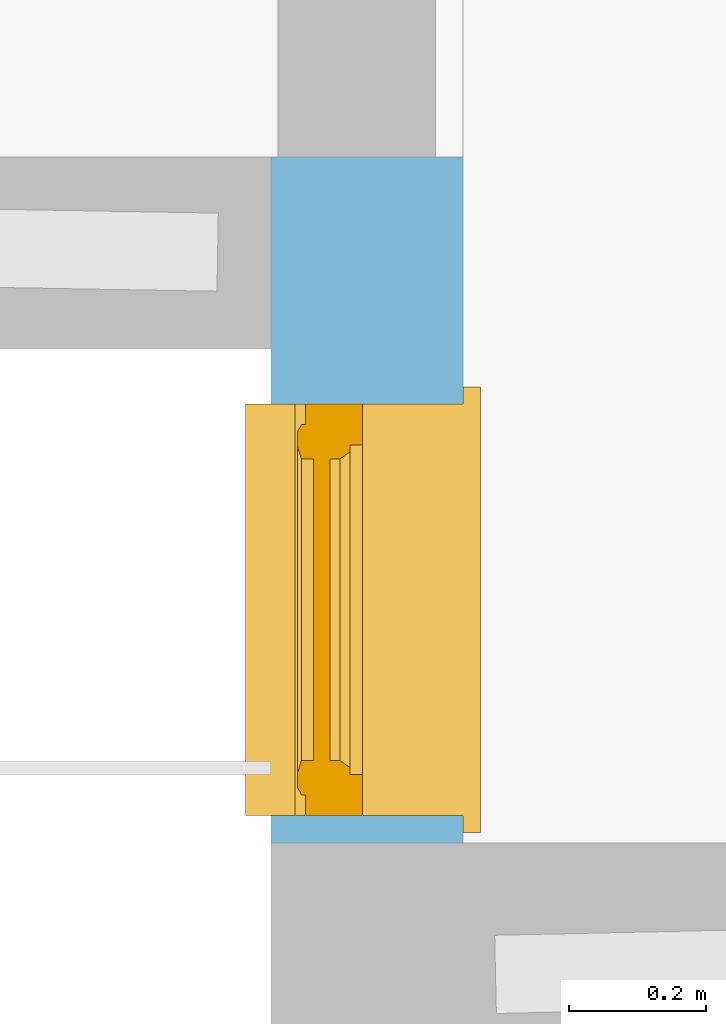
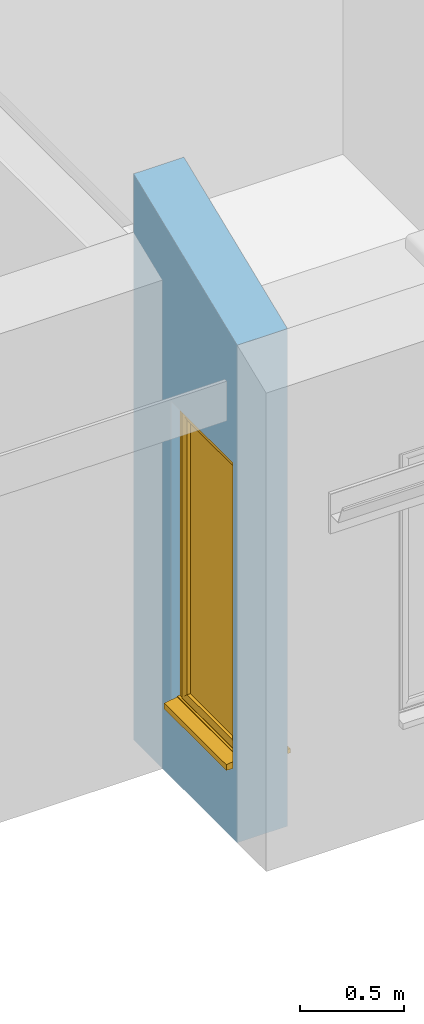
# One storey, part 10 of 41: 1 window, 1 opening, plus 1 element that does not belong to this part.
"""IFC2X3 building model written with IfcOpenShell, lengths in millimetres."""

import ifcopenshell
import ifcopenshell.guid

model = None  # the IFC model being written
_history = None  # IfcOwnerHistory: only IFC2X3 demands one
_inside = {}  # id of a spatial element -> (the spatial element, [elements in it])
_under = {}  # id of a project, library or spatial element -> (it, [spatial elements below it])
_declared = {}  # id of a project -> (the project, [libraries it declares])
_typed = {}  # id of a type object -> (the type object, [elements of that type])
_made_of = {}  # id of a material, layer set ... -> (it, [elements and type objects made of it])


def new_model(schema):
    """Start an empty IFC model of exactly this schema.

    Asked for "IFC4X3", IfcOpenShell would pick the latest addendum, in which some entities
    have other attributes; the version numbers below select the first issue.
    IFC2X3 requires an IfcOwnerHistory on every rooted entity: one is made here for all.
    """
    global model, _history
    if schema == "IFC4X3":
        model = ifcopenshell.file(schema_version=(4, 3, 0, 0))
    else:
        model = ifcopenshell.file(schema=schema)
    _inside.clear()
    _under.clear()
    _declared.clear()
    _typed.clear()
    _made_of.clear()
    _history = None
    if model.schema == "IFC2X3":
        org = make("IfcOrganization", Name="unknown")
        user = make(
            "IfcPersonAndOrganization",
            ThePerson=make("IfcPerson", FamilyName="unknown"),
            TheOrganization=org,
        )
        app = make(
            "IfcApplication",
            ApplicationDeveloper=org,
            Version="unknown",
            ApplicationFullName="unknown",
            ApplicationIdentifier="unknown",
        )
        _history = make(
            "IfcOwnerHistory",
            OwningUser=user,
            OwningApplication=app,
            ChangeAction="ADDED",
            CreationDate=0,
        )
    return model


def make(cls, **values):
    """One entity of the class cls with the attributes given. An attribute that is None is left unset."""
    return model.create_entity(
        cls, **{name: value for name, value in values.items() if value is not None}
    )


def entity(cls, *values):
    """Any entity or typed value of the class cls, its attributes in the order of the schema. None: left unset."""
    e = model.create_entity(cls)
    for i, value in enumerate(values):
        if value is not None:
            e[i] = value
    return e


def rooted(cls, **values):
    """An entity with a GlobalId (a new one), such as an element, a storey or a relation."""
    return make(cls, GlobalId=ifcopenshell.guid.new(), OwnerHistory=_history, **values)


def si_unit(unit_type, name, prefix=None):
    """IfcSIUnit, for example si_unit("LENGTHUNIT", "METRE", prefix="MILLI")."""
    return make("IfcSIUnit", UnitType=unit_type, Prefix=prefix, Name=name)


def converted_unit(unit_type, name, factor, base, dimensions=None, offset=None):
    """IfcConversionBasedUnit, such as the inch: factor (a typed value) times the base unit."""
    return make(
        "IfcConversionBasedUnit"
        if offset is None
        else "IfcConversionBasedUnitWithOffset",
        ConversionOffset=offset,
        Dimensions=None
        if dimensions is None
        else entity("IfcDimensionalExponents", *dimensions),
        UnitType=unit_type,
        Name=name,
        ConversionFactor=make(
            "IfcMeasureWithUnit", ValueComponent=factor, UnitComponent=base
        ),
    )


def derived_unit(unit_type, elements):
    """IfcDerivedUnit: a product of units, each with its exponent."""
    return make(
        "IfcDerivedUnit",
        Elements=[
            make("IfcDerivedUnitElement", Unit=unit, Exponent=power)
            for unit, power in elements
        ],
        UnitType=unit_type,
    )


def assignment(units):
    """IfcUnitAssignment: the units of a project."""
    return None if units is None else make("IfcUnitAssignment", Units=units)


def point(xyz):
    """IfcCartesianPoint."""
    return None if xyz is None else make("IfcCartesianPoint", Coordinates=xyz)


def direction(xyz):
    """IfcDirection."""
    return None if xyz is None else make("IfcDirection", DirectionRatios=xyz)


def frame(location, z_axis=None, x_axis=None):
    """IfcAxis2Placement3D, a coordinate frame: its origin and axes. An axis left out is left unset."""
    return make(
        "IfcAxis2Placement3D",
        Location=point(location),
        Axis=direction(z_axis),
        RefDirection=direction(x_axis),
    )


def frame_2d(location, x_axis=None):
    """IfcAxis2Placement2D, a coordinate frame in the plane: its origin and x axis."""
    return make(
        "IfcAxis2Placement2D", Location=point(location), RefDirection=direction(x_axis)
    )


def origin():
    """The frame at (0, 0, 0) with its axes left unset."""
    return frame((0.0, 0.0, 0.0))


def place(relative_to, where):
    """IfcLocalPlacement: puts the frame where relative to a parent placement (None: the world)."""
    return make(
        "IfcLocalPlacement", PlacementRelTo=relative_to, RelativePlacement=where
    )


def context(
    kind, dimensions, precision=None, world=None, true_north=None, identifier=None
):
    """IfcGeometricRepresentationContext, for example the 3D "Model" context."""
    return make(
        "IfcGeometricRepresentationContext",
        ContextIdentifier=identifier,
        ContextType=kind,
        CoordinateSpaceDimension=dimensions,
        Precision=precision,
        WorldCoordinateSystem=world,
        TrueNorth=true_north,
    )


def subcontext(parent, identifier, kind, view, scale=None):
    """IfcGeometricRepresentationSubContext, for example "Body" below "Model"."""
    return make(
        "IfcGeometricRepresentationSubContext",
        ContextIdentifier=identifier,
        ContextType=kind,
        ParentContext=parent,
        TargetScale=scale,
        TargetView=view,
    )


def project(units=None, contexts=None):
    """IfcProject with its units and contexts."""
    return rooted(
        "IfcProject",
        Name="project",
        RepresentationContexts=contexts,
        UnitsInContext=assignment(units),
    )


def spatial(cls, under=None, at=None, **own):
    """A site, building, storey or space (cls), placed at a placement, below another one or the project."""
    s = rooted(cls, ObjectPlacement=at, **own)
    if under is not None:
        _under.setdefault(under.id(), (under, []))[1].append(s)
    return s


def polyline(points):
    """IfcPolyline through the points."""
    return make("IfcPolyline", Points=[point(p) for p in points])


def profile(cls, at=None, kind="AREA", **sizes):
    """A parametric profile (cls). Its sizes go by their IFC names, for example OverallWidth=200.0."""
    return make(cls, ProfileType=kind, Position=at, **sizes)


def rectangle(**sizes):
    """IfcRectangleProfileDef."""
    return profile("IfcRectangleProfileDef", **sizes)


def extrude(swept, where, along, depth):
    """IfcExtrudedAreaSolid: the profile swept, set in the frame where, extruded along a direction by depth."""
    return make(
        "IfcExtrudedAreaSolid",
        SweptArea=swept,
        Position=where,
        ExtrudedDirection=direction(along),
        Depth=depth,
    )


def clip(a, b, op="DIFFERENCE"):
    """IfcBooleanClippingResult: the solid a cut by the half space b."""
    return make(
        "IfcBooleanClippingResult", Operator=op, FirstOperand=a, SecondOperand=b
    )


def bounded_halfspace(plane, agree, where, boundary):
    """IfcPolygonalBoundedHalfSpace: a half space limited to a polygon's prism."""
    return make(
        "IfcPolygonalBoundedHalfSpace",
        BaseSurface=make("IfcPlane", Position=plane),
        AgreementFlag=agree,
        Position=where,
        PolygonalBoundary=boundary,
    )


def faces_of(points, faces, orient=None, outer=None):
    """IfcFace entities. A face is a list of loops; a loop is a list of indices into points, from 0.

    orient and outer hold one flag for each loop. By default every Orientation is true, the
    first loop of a face is its IfcFaceOuterBound and the others are IfcFaceBound.
    """
    made = []
    for i, loops in enumerate(faces):
        bounds = []
        for j, loop in enumerate(loops):
            is_outer = j == 0 if outer is None else outer[i][j]
            bounds.append(
                make(
                    "IfcFaceOuterBound" if is_outer else "IfcFaceBound",
                    Bound=make("IfcPolyLoop", Polygon=[points[k] for k in loop]),
                    Orientation=True if orient is None else orient[i][j],
                )
            )
        made.append(make("IfcFace", Bounds=bounds))
    return made


def faceted_brep(points, faces, orient=None, outer=None, voids=None):
    """IfcFacetedBrep: a solid bounded by flat faces; with voids (closed shells), ...WithVoids."""
    shared = [point(p) for p in points]
    hull = make("IfcClosedShell", CfsFaces=faces_of(shared, faces, orient, outer))
    if voids is None:
        return make("IfcFacetedBrep", Outer=hull)
    return make(
        "IfcFacetedBrepWithVoids",
        Outer=hull,
        Voids=[
            make(cls, CfsFaces=faces_of(shared, fs, o, b)) for cls, fs, o, b in voids
        ],
    )


def shape(context_of_items, identifier, shape_type, items):
    """IfcShapeRepresentation: the items that make up one representation, for example the "Body"."""
    return make(
        "IfcShapeRepresentation",
        ContextOfItems=context_of_items,
        RepresentationIdentifier=identifier,
        RepresentationType=shape_type,
        Items=items,
    )


def source(mapping_origin, context_of_items, identifier, shape_type, items):
    """IfcRepresentationMap: a shape defined once, which mapped items show again and again."""
    return make(
        "IfcRepresentationMap",
        MappingOrigin=mapping_origin,
        MappedRepresentation=shape(context_of_items, identifier, shape_type, items),
    )


def transform(
    local_origin,
    x_axis=None,
    y_axis=None,
    z_axis=None,
    scale=None,
    scale2=None,
    scale3=None,
    uniform=True,
):
    """IfcCartesianTransformationOperator3D, or its non-uniform kind. x_axis, y_axis, z_axis: its Axis1, 2, 3."""
    if uniform:
        return make(
            "IfcCartesianTransformationOperator3D",
            Axis1=direction(x_axis),
            Axis2=direction(y_axis),
            LocalOrigin=point(local_origin),
            Scale=scale,
            Axis3=direction(z_axis),
        )
    return make(
        "IfcCartesianTransformationOperator3DnonUniform",
        Axis1=direction(x_axis),
        Axis2=direction(y_axis),
        LocalOrigin=point(local_origin),
        Scale=scale,
        Axis3=direction(z_axis),
        Scale2=scale2,
        Scale3=scale3,
    )


def mapped(mapping_source, mapping_target):
    """IfcMappedItem: shows the shape of a source again, moved by a transform."""
    return make(
        "IfcMappedItem", MappingSource=mapping_source, MappingTarget=mapping_target
    )


def material(Name=None, Category=None):
    """IfcMaterial."""
    return make("IfcMaterial", Name=Name, Category=Category)


def material_list(materials):
    """IfcMaterialList."""
    return make("IfcMaterialList", Materials=materials)


def layer(
    of_material, thickness, ventilated=None, Name=None, Category=None, Priority=None
):
    """IfcMaterialLayer: one layer of a wall or slab, of a material (None: an air gap)."""
    return make(
        "IfcMaterialLayer",
        Material=of_material,
        LayerThickness=thickness,
        IsVentilated=ventilated,
        Name=Name,
        Category=Category,
        Priority=Priority,
    )


def layer_set(layers, Name=None):
    """IfcMaterialLayerSet."""
    return make("IfcMaterialLayerSet", MaterialLayers=layers, LayerSetName=Name)


def layer_usage(for_layer_set, set_direction, sense, offset, extent=None):
    """IfcMaterialLayerSetUsage: how a layer set lies in its element."""
    return make(
        "IfcMaterialLayerSetUsage",
        ForLayerSet=for_layer_set,
        LayerSetDirection=set_direction,
        DirectionSense=sense,
        OffsetFromReferenceLine=offset,
        ReferenceExtent=extent,
    )


def made_of(thing, what):
    """Note that an element or type object is made of a material, layer set ...; save() writes the relation."""
    if what is not None:
        _made_of.setdefault(what.id(), (what, []))[1].append(thing)
    return thing


def type_object(cls, material=None, **own):
    """A type object (cls), such as IfcWallType, which elements share."""
    return made_of(rooted(cls, **own), material)


def type_shapes(of_type, sources):
    """Give a type object the sources (RepresentationMaps) that its elements show as mapped items."""
    of_type.RepresentationMaps = sources


def element(
    cls,
    number,
    at=None,
    inside=None,
    cuts=None,
    type_object=None,
    material=None,
    context=None,
    identifier="Body",
    shape_type=None,
    held_by="IfcProductDefinitionShape",
    body=None,
    shapes=None,
    **own,
):
    """One element of the class cls, such as IfcWall. Its Tag is "e" and its number.

    at: its placement. inside: the storey or other place that contains it. cuts: it is an
    opening in that element (IfcRelVoidsElement). A single representation is given by context,
    identifier, shape_type and body (its items); several are given by shapes. held_by: the class
    of the entity that holds the representations. save() writes the other relations.
    """
    e = rooted(cls, Tag="e%d" % number, ObjectPlacement=at, **own)
    if body is not None:
        shapes = [shape(context, identifier, shape_type, body)]
    if shapes is not None:
        e.Representation = make(held_by, Representations=shapes)
    if inside is not None:
        _inside.setdefault(inside.id(), (inside, []))[1].append(e)
    if cuts is not None:
        rooted(
            "IfcRelVoidsElement", RelatingBuildingElement=cuts, RelatedOpeningElement=e
        )
    if type_object is not None:
        _typed.setdefault(type_object.id(), (type_object, []))[1].append(e)
    return made_of(e, material)


def fill(opening, filler):
    """IfcRelFillsElement: the door or window that sits in an opening."""
    return rooted(
        "IfcRelFillsElement",
        RelatingOpeningElement=opening,
        RelatedBuildingElement=filler,
    )


def aggregate(whole, parts):
    """IfcRelAggregates: a whole, such as a stair, and the parts it consists of."""
    return rooted("IfcRelAggregates", RelatingObject=whole, RelatedObjects=parts)


def save(model, path):
    """Write the relations noted so far, then the file.

    IfcRelAggregates (storeys below a building ...), IfcRelContainedInSpatialStructure (elements
    in a storey), IfcRelDefinesByType, IfcRelAssociatesMaterial and IfcRelDeclares: one each for
    every whole, place, type object, material and project.
    """
    for whole, parts in _under.values():
        aggregate(whole, parts)
    for where, things in _inside.values():
        rooted(
            "IfcRelContainedInSpatialStructure",
            RelatedElements=things,
            RelatingStructure=where,
        )
    for kind, things in _typed.values():
        rooted("IfcRelDefinesByType", RelatedObjects=things, RelatingType=kind)
    for what, things in _made_of.values():
        rooted("IfcRelAssociatesMaterial", RelatedObjects=things, RelatingMaterial=what)
    for by, libraries in _declared.values():
        rooted("IfcRelDeclares", RelatingContext=by, RelatedDefinitions=libraries)
    model.write(path)


model = new_model("IFC2X3")

# Units and contexts
model_context = context("Model", 3, precision=0.01, world=origin(), true_north=direction((6.12303176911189e-17, 1.0)))
body_context = subcontext(model_context, "Body", "Model", "MODEL_VIEW")
ifc_project = project(units=[si_unit("LENGTHUNIT", "METRE", prefix="MILLI"), si_unit("AREAUNIT", "SQUARE_METRE"), si_unit("VOLUMEUNIT", "CUBIC_METRE"), converted_unit("PLANEANGLEUNIT", "DEGREE", entity("IfcRatioMeasure", 0.0174532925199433), si_unit("PLANEANGLEUNIT", "RADIAN"), dimensions=[0, 0, 0, 0, 0, 0, 0]), si_unit("MASSUNIT", "GRAM", prefix="KILO"), derived_unit("MASSDENSITYUNIT", [(si_unit("MASSUNIT", "GRAM", prefix="KILO"), 1), (si_unit("LENGTHUNIT", "METRE"), -3)]), si_unit("TIMEUNIT", "SECOND"), si_unit("FREQUENCYUNIT", "HERTZ"), si_unit("THERMODYNAMICTEMPERATUREUNIT", "DEGREE_CELSIUS"), derived_unit("THERMALTRANSMITTANCEUNIT", [(si_unit("MASSUNIT", "GRAM", prefix="KILO"), 1), (si_unit("THERMODYNAMICTEMPERATUREUNIT", "KELVIN"), -1), (si_unit("TIMEUNIT", "SECOND"), -3)]), derived_unit("VOLUMETRICFLOWRATEUNIT", [(si_unit("LENGTHUNIT", "METRE"), 3), (si_unit("TIMEUNIT", "SECOND"), -1)]), si_unit("ELECTRICCURRENTUNIT", "AMPERE"), si_unit("ELECTRICVOLTAGEUNIT", "VOLT"), si_unit("POWERUNIT", "WATT"), si_unit("FORCEUNIT", "NEWTON", prefix="KILO"), si_unit("ILLUMINANCEUNIT", "LUX"), si_unit("LUMINOUSFLUXUNIT", "LUMEN"), si_unit("LUMINOUSINTENSITYUNIT", "CANDELA"), derived_unit("USERDEFINED", [(si_unit("MASSUNIT", "GRAM", prefix="KILO"), -1), (si_unit("LENGTHUNIT", "METRE"), -2), (si_unit("TIMEUNIT", "SECOND"), 3), (si_unit("LUMINOUSFLUXUNIT", "LUMEN"), 1)]), derived_unit("LINEARVELOCITYUNIT", [(si_unit("LENGTHUNIT", "METRE"), 1), (si_unit("TIMEUNIT", "SECOND"), -1)]), si_unit("PRESSUREUNIT", "PASCAL"), derived_unit("USERDEFINED", [(si_unit("LENGTHUNIT", "METRE"), -2), (si_unit("MASSUNIT", "GRAM", prefix="KILO"), 1), (si_unit("TIMEUNIT", "SECOND"), -2)])], contexts=[model_context])

# Site, building, storey
site_placement = place(None, origin())
site = spatial("IfcSite", under=ifc_project, at=site_placement, Name="Surface", CompositionType="ELEMENT")
building_placement = place(site_placement, origin())
building = spatial("IfcBuilding", under=site, at=building_placement, CompositionType="ELEMENT")
storey_placement = place(building_placement, frame((0.0, 0.0, 300.0)))
storey = spatial("IfcBuildingStorey", under=building, at=storey_placement, Name="F.F.L", CompositionType="ELEMENT", Elevation=300.0)

# Wall, opening, window
ifc_material_1 = material(Name="Plaster")
ifc_layer_1 = layer(ifc_material_1, 10.0)
ifc_material_2 = material(Name="Brickwork - 110mm (Stock)")
ifc_layer_2 = layer(ifc_material_2, 110.0)
ifc_material_3 = material(Name="Air Infiltration Barrier")
ifc_layer_3 = layer(ifc_material_3, 50.0)
ifc_material_4 = material(Name="Brickwork - Facebrick (Plettenberg Autumn)")
ifc_layer_4 = layer(ifc_material_4, 110.0)
ifc_layer_set = layer_set([ifc_layer_1, ifc_layer_2, ifc_layer_3, ifc_layer_4], Name="Basic Wall:BrickWall - 270mm (Ext.F&Int.S) 2")
ifc_layer_usage = layer_usage(ifc_layer_set, "AXIS2", "POSITIVE", -140.0)
wall_type = type_object("IfcWallType", Name="Basic Wall:BrickWall - 270mm (Ext.F&Int.S) 2", PredefinedType="STANDARD", material=ifc_layer_set)
wall_placement = place(storey_placement, frame((93.1248299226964, 2860.84008915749, -150.0), z_axis=(0.0, 0.0, 1.0), x_axis=(0.0, 1.0, 0.0)))
wall = element("IfcWallStandardCase", 1, at=wall_placement, inside=storey, type_object=wall_type, material=ifc_layer_usage, Name="Basic Wall:BrickWall - 270mm (Ext.F&Int.S) 2", ObjectType="Basic Wall:BrickWall - 270mm (Ext.F&Int.S) 2", context=body_context, shape_type="Clipping", body=[
    clip(extrude(rectangle(XDim=999.999999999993, YDim=280.0, at=frame_2d((499.999999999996, 0.0), x_axis=(-1.0, 0.0))), origin(), (0.0, 0.0, 1.0), 3336.82823498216), bounded_halfspace(frame((0.0, -140.0, 2932.80200914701), z_axis=(-0.374606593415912, 0.0, 0.927183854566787), x_axis=(0.0, -1.0, 0.0)), False, frame((0.0, -140.0, 2932.80200914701)), polyline([(0.0, 0.0), (1000.0, 0.0), (1000.0, 280.0), (0.0, 280.0), (0.0, 0.0)]))),
])
opening_placement = place(wall_placement, frame((40.0, -140.0, 415.0)))
opening = element("IfcOpeningElement", 2, at=opening_placement, cuts=wall, Name="Sgl All Bars:M_Casement 2x3:1", ObjectType="Opening", context=body_context, shape_type="SweptSolid", body=[
    extrude(rectangle(XDim=1800.0, YDim=600.0, at=frame_2d((900.0, 300.0), x_axis=(-1.0, 0.0))), frame((0.0, 0.0, 0.0), z_axis=(0.0, 1.0, 0.0), x_axis=(0.0, 0.0, 1.0)), (0.0, 0.0, 1.0), 280.0),
])
ifc_material_5 = material(Name="Meranti - Varnish Mat")
ifc_material_6 = material(Name="Glass")
ifc_material_list_1 = material_list([ifc_material_5, ifc_material_6])
ifc_material_list_2 = material_list([ifc_material_5, ifc_material_6])
window_style = type_object("IfcWindowStyle", Name="M_Casement 2x3", ConstructionType="NOTDEFINED", OperationType="SINGLE_PANEL", ParameterTakesPrecedence=False, Sizeable=False, material=ifc_material_list_2)
shared_shape = source(origin(), body_context, "Body", "Brep", [
    faceted_brep([(-25.0, -25.0, 0.0), (-25.0, 0.0, 0.0), (0.0, 0.0, 0.0), (0.0, 147.0, 0.0), (600.0, 147.0, 0.0), (600.0, 0.0, 0.0), (625.0, 0.0, 0.0), (625.0, -25.0, 0.0), (-25.0, -25.0, 25.0), (625.0, -25.0, 25.0), (625.0, 0.0, 25.0), (600.0, 0.0, 25.0), (600.0, 147.0, 25.0), (0.0, 147.0, 25.0), (0.0, 0.0, 25.0), (-25.0, 0.0, 25.0)], [[[0, 1, 2, 3, 4, 5, 6, 7]], [[8, 9, 10, 11, 12, 13, 14, 15]], [[1, 0, 8, 15]], [[2, 1, 15, 14]], [[3, 2, 14, 13]], [[4, 3, 13, 12]], [[5, 4, 12, 11]], [[6, 5, 11, 10]], [[7, 6, 10, 9]], [[0, 7, 9, 8]]]),
    faceted_brep([(0.0, 147.0, 0.0), (600.0, 147.0, 0.0), (600.0, 147.0, 1800.0), (0.0, 147.0, 1800.0), (60.0, 147.0, 1740.0), (540.0, 147.0, 1740.0), (540.0, 147.0, 75.0), (60.0, 147.0, 75.0), (0.0, 230.0, 1800.0), (0.0, 230.0, 51.0), (0.0, 245.0, 49.6876700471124), (0.0, 245.0, 44.7449676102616), (0.0, 317.50000000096, 33.808884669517), (0.0, 317.500000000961, 0.0), (600.0, 230.0, 1800.0), (600.0, 230.0, 51.0), (40.0, 230.0, 1760.0), (40.0, 230.0, 63.0), (560.0, 230.0, 63.0), (560.0, 230.0, 1760.0), (40.0, 165.0, 1760.0), (40.0, 165.0, 63.0), (60.0, 165.0, 1740.0), (60.0, 165.0, 75.0), (540.0, 165.0, 75.0), (540.0, 165.0, 1740.0), (560.0, 165.0, 1760.0), (560.0, 165.0, 63.0), (600.0, 317.50000000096, 0.0), (600.0, 317.50000000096, 33.808884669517), (600.0, 245.0, 44.7449676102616), (600.0, 245.0, 49.6876700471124)], [[[0, 1, 2, 3], [4, 5, 6, 7]], [[0, 3, 8, 9, 10, 11, 12, 13]], [[9, 8, 14, 15], [16, 17, 18, 19]], [[17, 16, 20, 21]], [[22, 23, 24, 25], [20, 26, 27, 21]], [[22, 4, 7, 23]], [[3, 2, 14, 8]], [[16, 19, 26, 20]], [[5, 4, 22, 25]], [[15, 14, 2, 1, 28, 29, 30, 31]], [[19, 18, 27, 26]], [[5, 25, 24, 6]], [[28, 1, 0, 13]], [[29, 28, 13, 12]], [[30, 29, 12, 11]], [[31, 30, 11, 10]], [[15, 31, 10, 9]], [[21, 27, 18, 17]], [[7, 6, 24, 23]]], outer=[[True, False], [True], [True, False], [True], [False, True], [True], [True], [True], [True], [True], [True], [True], [True], [True], [True], [True], [True], [True], [True]]),
    faceted_brep([(530.0, 194.0, 93.0), (530.0, 194.0, 1730.0), (70.0, 194.0, 1730.0), (70.0, 194.0, 93.0), (530.0, 218.0, 93.0), (70.0, 218.0, 93.0), (70.0, 218.0, 1730.0), (530.0, 218.0, 1730.0)], [[[0, 1, 2, 3]], [[4, 5, 6, 7]], [[1, 0, 4, 7]], [[2, 1, 7, 6]], [[3, 2, 6, 5]], [[0, 3, 5, 4]]]),
    faceted_brep([(30.0, 230.0, 1770.0), (30.0, 235.773502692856, 1770.0), (30.0, 235.773502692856, 53.0), (30.0, 230.0, 53.0), (40.0, 165.0, 1760.0), (40.0, 230.0, 1760.0), (40.0, 230.0, 63.0), (40.0, 165.0, 63.0), (80.0, 179.492899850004, 1720.0), (69.8519622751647, 165.0, 1730.14803772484), (69.8519622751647, 165.0, 92.8519622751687), (80.0, 179.492899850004, 103.0), (80.0, 194.0, 1720.0), (80.0, 194.0, 103.0), (70.0, 218.0, 1730.0), (70.0, 194.0, 1730.0), (70.0, 194.0, 93.0), (70.0, 218.0, 93.0), (80.0, 235.773502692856, 1720.0), (80.0, 218.0, 1720.0), (80.0, 218.0, 103.0), (80.0, 235.773502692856, 103.0), (62.5542451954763, 241.547005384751, 1737.44575480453), (62.5542451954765, 241.547005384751, 85.5542451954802), (40.7846096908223, 241.547005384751, 1759.21539030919), (40.7846096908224, 241.547005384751, 63.784609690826), (570.0, 235.773502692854, 53.0), (570.0, 230.0, 53.0), (560.0, 230.0, 63.0), (560.0, 165.0, 63.0), (530.148037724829, 165.0, 92.8519622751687), (520.0, 179.492899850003, 103.0), (520.0, 194.0, 103.0), (530.0, 194.0, 93.0), (530.0, 218.0, 93.0), (520.0, 218.0, 103.0), (520.0, 235.773502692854, 103.0), (537.445754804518, 241.547005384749, 85.5542451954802), (559.215390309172, 241.547005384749, 63.784609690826), (570.0, 235.773502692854, 1770.0), (570.0, 230.0, 1770.0), (560.0, 230.0, 1760.0), (560.0, 165.0, 1760.0), (530.148037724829, 165.0, 1730.14803772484), (520.0, 179.492899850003, 1720.0), (520.0, 194.0, 1720.0), (530.0, 194.0, 1730.0), (530.0, 218.0, 1730.0), (520.0, 218.0, 1720.0), (520.0, 235.773502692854, 1720.0), (537.445754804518, 241.547005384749, 1737.44575480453), (559.215390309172, 241.547005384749, 1759.21539030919)], [[[0, 1, 2, 3]], [[4, 5, 6, 7]], [[8, 9, 10, 11]], [[12, 8, 11, 13]], [[14, 15, 16, 17]], [[18, 19, 20, 21]], [[22, 18, 21, 23]], [[1, 24, 25, 2]], [[3, 2, 26, 27]], [[7, 6, 28, 29]], [[11, 10, 30, 31]], [[13, 11, 31, 32]], [[17, 16, 33, 34]], [[21, 20, 35, 36]], [[23, 21, 36, 37]], [[2, 25, 38, 26]], [[27, 26, 39, 40]], [[29, 28, 41, 42]], [[31, 30, 43, 44]], [[32, 31, 44, 45]], [[34, 33, 46, 47]], [[36, 35, 48, 49]], [[37, 36, 49, 50]], [[26, 38, 51, 39]], [[40, 39, 1, 0]], [[3, 27, 40, 0], [5, 41, 28, 6]], [[42, 41, 5, 4]], [[7, 29, 42, 4], [9, 43, 30, 10]], [[44, 43, 9, 8]], [[45, 44, 8, 12]], [[13, 32, 45, 12], [15, 46, 33, 16]], [[47, 46, 15, 14]], [[17, 34, 47, 14], [19, 48, 35, 20]], [[49, 48, 19, 18]], [[50, 49, 18, 22]], [[23, 37, 50, 22], [24, 51, 38, 25]], [[39, 51, 24, 1]]], outer=[[True], [True], [True], [True], [True], [True], [True], [True], [True], [True], [True], [True], [True], [True], [True], [True], [True], [True], [True], [True], [True], [True], [True], [True], [True], [True, False], [True], [True, False], [True], [True], [False, True], [True], [True, False], [True], [True], [False, True], [True]]),
    faceted_brep([(310.0, 210.0, 1184.33333333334), (310.0, 210.0, 638.666666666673), (530.148037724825, 210.0, 638.666666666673), (530.148037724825, 210.0, 618.666666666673), (310.0, 210.0, 618.666666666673), (310.0, 210.0, 93.0), (290.0, 210.0, 93.0), (290.0, 210.0, 618.666666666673), (69.8519622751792, 210.0, 618.666666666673), (69.8519622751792, 210.0, 638.666666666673), (290.0, 210.0, 638.666666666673), (290.0, 210.0, 1184.33333333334), (69.8519622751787, 210.0, 1184.33333333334), (69.8519622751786, 210.0, 1204.33333333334), (290.0, 210.0, 1204.33333333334), (290.0, 210.0, 1730.0), (310.0, 210.0, 1730.0), (310.0, 210.0, 1204.33333333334), (530.148037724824, 210.0, 1204.33333333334), (530.148037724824, 210.0, 1184.33333333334), (310.0, 202.0, 1184.33333333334), (530.148037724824, 202.0, 1184.33333333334), (530.148037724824, 202.0, 1204.33333333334), (310.0, 202.0, 1204.33333333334), (310.0, 202.0, 1730.0), (290.0, 202.0, 1730.0), (290.0, 202.0, 1204.33333333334), (69.8519622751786, 202.0, 1204.33333333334), (69.8519622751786, 202.0, 1184.33333333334), (290.0, 202.0, 1184.33333333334), (290.0, 202.0, 638.666666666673), (69.8519622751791, 202.0, 638.666666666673), (69.8519622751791, 202.0, 618.666666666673), (290.0, 202.0, 618.666666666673), (290.0, 202.0, 93.0), (310.0, 202.0, 93.0), (310.0, 202.0, 618.666666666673), (530.148037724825, 202.0, 618.666666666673), (530.148037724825, 202.0, 638.666666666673), (310.0, 202.0, 638.666666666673)], [[[0, 1, 2, 3, 4, 5, 6, 7, 8, 9, 10, 11, 12, 13, 14, 15, 16, 17, 18, 19]], [[20, 21, 22, 23, 24, 25, 26, 27, 28, 29, 30, 31, 32, 33, 34, 35, 36, 37, 38, 39]], [[1, 0, 20, 39]], [[2, 1, 39, 38]], [[3, 2, 38, 37]], [[4, 3, 37, 36]], [[5, 4, 36, 35]], [[6, 5, 35, 34]], [[7, 6, 34, 33]], [[8, 7, 33, 32]], [[9, 8, 32, 31]], [[10, 9, 31, 30]], [[11, 10, 30, 29]], [[12, 11, 29, 28]], [[13, 12, 28, 27]], [[14, 13, 27, 26]], [[15, 14, 26, 25]], [[16, 15, 25, 24]], [[17, 16, 24, 23]], [[18, 17, 23, 22]], [[19, 18, 22, 21]], [[0, 19, 21, 20]]]),
])
type_shapes(window_style, [shared_shape])
window_placement = place(opening_placement, origin())
window = element("IfcWindow", 3, at=window_placement, inside=storey, type_object=window_style, material=ifc_material_list_1, Name="Sgl All Bars:M_Casement 2x3", ObjectType="M_Casement 2x3", OverallHeight=1800.0, OverallWidth=600.0, context=body_context, shape_type="MappedRepresentation", body=[
    mapped(shared_shape, transform((0.0, 0.0, 0.0), scale=1.0)),
])
fill(opening, window)

save(model, "model.ifc")
